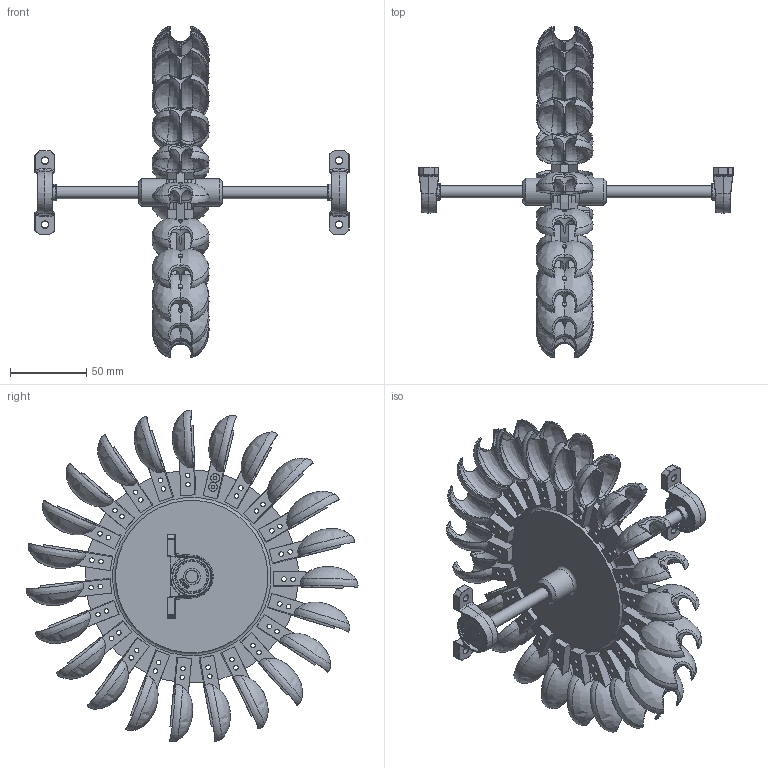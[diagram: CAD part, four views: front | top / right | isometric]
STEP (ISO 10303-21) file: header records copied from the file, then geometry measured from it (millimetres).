
FILE_DESCRIPTION(/* description */ (''),/* implementation_level */ '2;1');
FILE_NAME(/* name */ 'C:\Users\admin\Desktop\inventor\pelton\step\Assieme_pelton.stp',/* time_stamp */ '2021-09-20T08:15:19+02:00',/* author */ ('admin'),/* organization */ (''),/* preprocessor_version */ 'ST-DEVELOPER v18.1',/* originating_system */ 'Autodesk Inventor 2022',/* authorisation */ '');
FILE_SCHEMA (('AUTOMOTIVE_DESIGN { 1 0 10303 214 3 1 1 }'));
Length unit declared in the file: millimetre
Products named in the file (6): Assieme_pelton; disco_pelton; pelton2; Vite a testa cilindrica incassata esalobulare ISO 14580 - M3x25-4.8; albero_pelton; KP08
Assembly tree (29 placements, depth 2):
  Assieme_pelton
    disco_pelton
    pelton2  x23
    Vite a testa cilindrica incassata esalobulare ISO 14580 - M3x25-4.8  x2
    albero_pelton
    KP08  x2
Bounding box: 206 x 217.8 x 217.52 mm (x, y, z)
Volume: 315409.1 mm3; surface area: 174720.6 mm2
Topology: 31 solids, 32 shells, 2164 faces, 5583 edges, 3517 vertices
Faces by surface type: bspline 1026, plane 535, cylinder 449, sphere 72, torus 58, cone 24
Full cylindrical faces by diameter (mm): 2.5 x4, 3 x163, 4.5 x4, 8 x6, 10.9 x2, 11 x4, 18 x2, 20 x4, 22 x4, 25 x4, 100 x2, 140 x1
Entity records: 28724 total; most frequent: CARTESIAN_POINT 15234, ORIENTED_EDGE 2844, DIRECTION 2351, EDGE_CURVE 1422, AXIS2_PLACEMENT_3D 911, VERTEX_POINT 884, EDGE_LOOP 726, FACE_OUTER_BOUND 583
